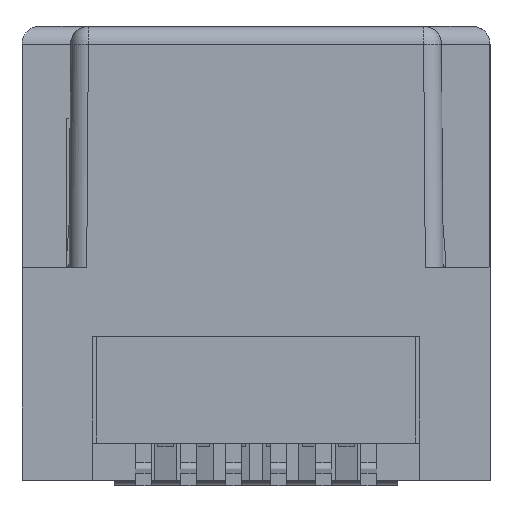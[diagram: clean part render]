
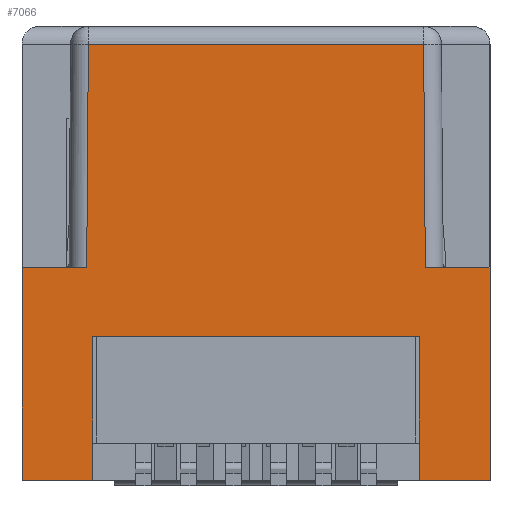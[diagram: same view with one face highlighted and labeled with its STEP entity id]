
A CAD part, front view. The second image highlights one B-rep face of the part: STEP entity #7066.
In plain terms, the highlighted planar face has unit normal (0, -1, 0).
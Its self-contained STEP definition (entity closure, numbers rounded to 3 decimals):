
#297=DIRECTION('',(-0.007,0.,1.));
#298=VECTOR('',#297,6.3);
#299=CARTESIAN_POINT('',(3.196,-4.906,
-0.4));
#300=LINE('',#299,#298);
#301=DIRECTION('',(0.,0.,1.));
#302=VECTOR('',#301,4.05);
#303=CARTESIAN_POINT('',(-6.179,-4.906,-6.4));
#304=LINE('',#303,#302);
#305=DIRECTION('',(-0.007,0.,-1.));
#306=VECTOR('',#305,6.3);
#307=CARTESIAN_POINT('',(-6.307,-4.906,5.9));
#308=LINE('',#307,#306);
#313=DIRECTION('',(-1.,0.,0.));
#314=VECTOR('',#313,9.457);
#315=CARTESIAN_POINT('',(3.15,-4.906,5.9));
#316=LINE('',#315,#314);
#619=DIRECTION('',(0.,0.,1.));
#620=VECTOR('',#619,4.05);
#621=CARTESIAN_POINT('',(3.021,-4.906,-6.4));
#622=LINE('',#621,#620);
#1407=DIRECTION('',(-1.,0.,0.));
#1408=VECTOR('',#1407,9.2);
#1409=CARTESIAN_POINT('',(3.021,-4.906,
-2.35));
#1410=LINE('',#1409,#1408);
#2881=DIRECTION('',(-1.,0.,0.));
#2882=VECTOR('',#2881,1.825);
#2883=CARTESIAN_POINT('',(-6.354,-4.906,-0.4));
#2884=LINE('',#2883,#2882);
#2901=DIRECTION('',(0.,0.,1.));
#2902=VECTOR('',#2901,6.);
#2903=CARTESIAN_POINT('',(-8.179,-4.906,-6.4));
#2904=LINE('',#2903,#2902);
#3021=DIRECTION('',(-1.,0.,0.));
#3022=VECTOR('',#3021,2.);
#3023=CARTESIAN_POINT('',(5.021,-4.906,-6.4));
#3024=LINE('',#3023,#3022);
#3051=DIRECTION('',(-1.,0.,0.));
#3052=VECTOR('',#3051,2.);
#3053=CARTESIAN_POINT('',(-6.179,-4.906,-6.4));
#3054=LINE('',#3053,#3052);
#3111=DIRECTION('',(-1.,0.,0.));
#3112=VECTOR('',#3111,1.825);
#3113=CARTESIAN_POINT('',(5.021,-4.906,-0.4));
#3114=LINE('',#3113,#3112);
#4769=DIRECTION('',(0.,0.,1.));
#4770=VECTOR('',#4769,6.);
#4771=CARTESIAN_POINT('',(5.021,-4.906,-6.4));
#4772=LINE('',#4771,#4770);
#5293=CARTESIAN_POINT('',(-6.179,-4.906,-6.4));
#5294=CARTESIAN_POINT('',(-6.179,-4.906,
-2.35));
#5295=VERTEX_POINT('',#5293);
#5296=VERTEX_POINT('',#5294);
#5315=CARTESIAN_POINT('',(3.15,-4.906,5.9));
#5316=CARTESIAN_POINT('',(-6.307,-4.906,
5.9));
#5317=VERTEX_POINT('',#5315);
#5318=VERTEX_POINT('',#5316);
#5319=CARTESIAN_POINT('',(3.196,-4.906,
-0.4));
#5320=VERTEX_POINT('',#5319);
#5321=CARTESIAN_POINT('',(5.021,-4.906,-0.4));
#5322=VERTEX_POINT('',#5321);
#5323=CARTESIAN_POINT('',(5.021,-4.906,-6.4));
#5324=VERTEX_POINT('',#5323);
#5325=CARTESIAN_POINT('',(3.021,-4.906,-6.4));
#5326=VERTEX_POINT('',#5325);
#5327=CARTESIAN_POINT('',(3.021,-4.906,
-2.35));
#5328=VERTEX_POINT('',#5327);
#5329=CARTESIAN_POINT('',(-8.179,-4.906,-6.4));
#5330=VERTEX_POINT('',#5329);
#5331=CARTESIAN_POINT('',(-8.179,-4.906,-0.4));
#5332=VERTEX_POINT('',#5331);
#5333=CARTESIAN_POINT('',(-6.354,-4.906,-0.4));
#5334=VERTEX_POINT('',#5333);
#7036=CARTESIAN_POINT('',(-1.579,-4.906,-0.25));
#7037=DIRECTION('',(0.,1.,0.));
#7038=DIRECTION('',(1.,0.,0.));
#7039=AXIS2_PLACEMENT_3D('',#7036,#7037,#7038);
#7040=PLANE('',#7039);
#7042=ORIENTED_EDGE('',*,*,#7041,.F.);
#7044=ORIENTED_EDGE('',*,*,#7043,.F.);
#7046=ORIENTED_EDGE('',*,*,#7045,.F.);
#7048=ORIENTED_EDGE('',*,*,#7047,.F.);
#7050=ORIENTED_EDGE('',*,*,#7049,.T.);
#7052=ORIENTED_EDGE('',*,*,#7051,.T.);
#7054=ORIENTED_EDGE('',*,*,#7053,.T.);
#7055=ORIENTED_EDGE('',*,*,#7010,.F.);
#7057=ORIENTED_EDGE('',*,*,#7056,.T.);
#7059=ORIENTED_EDGE('',*,*,#7058,.T.);
#7061=ORIENTED_EDGE('',*,*,#7060,.F.);
#7063=ORIENTED_EDGE('',*,*,#7062,.F.);
#7064=EDGE_LOOP('',(#7042,#7044,#7046,#7048,#7050,#7052,#7054,#7055,#7057,#7059,
#7061,#7063));
#7065=FACE_OUTER_BOUND('',#7064,.F.);
#7066=ADVANCED_FACE('',(#7065),#7040,.F.);
#7010=EDGE_CURVE('',#5295,#5296,#304,.T.);
#7041=EDGE_CURVE('',#5317,#5318,#316,.T.);
#7043=EDGE_CURVE('',#5320,#5317,#300,.T.);
#7045=EDGE_CURVE('',#5322,#5320,#3114,.T.);
#7047=EDGE_CURVE('',#5324,#5322,#4772,.T.);
#7049=EDGE_CURVE('',#5324,#5326,#3024,.T.);
#7051=EDGE_CURVE('',#5326,#5328,#622,.T.);
#7053=EDGE_CURVE('',#5328,#5296,#1410,.T.);
#7056=EDGE_CURVE('',#5295,#5330,#3054,.T.);
#7058=EDGE_CURVE('',#5330,#5332,#2904,.T.);
#7060=EDGE_CURVE('',#5334,#5332,#2884,.T.);
#7062=EDGE_CURVE('',#5318,#5334,#308,.T.);
